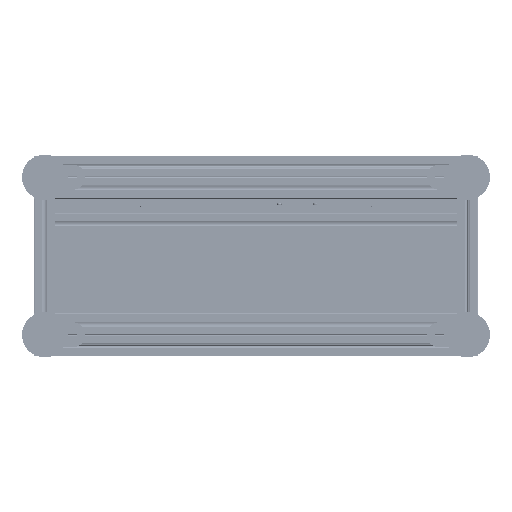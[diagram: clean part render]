
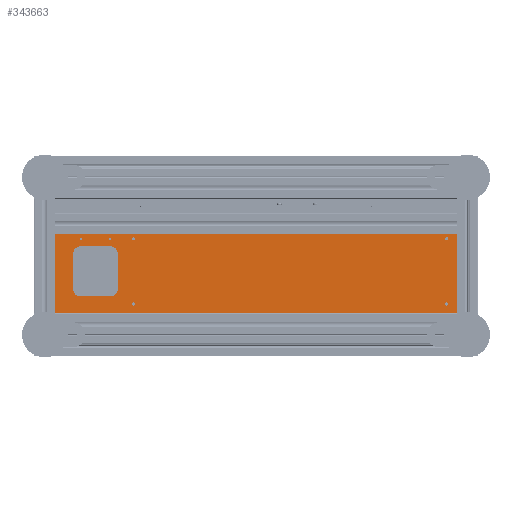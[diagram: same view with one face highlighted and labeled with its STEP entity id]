
A CAD part, front view. The second image highlights one B-rep face of the part: STEP entity #343663.
In plain terms, the highlighted planar face has unit normal (0, -1, 0).
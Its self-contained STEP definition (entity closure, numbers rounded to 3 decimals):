
#13800=FACE_BOUND('',#54525,.T.);
#13801=FACE_BOUND('',#54526,.T.);
#13802=FACE_BOUND('',#54527,.T.);
#13803=FACE_BOUND('',#54528,.T.);
#13804=FACE_BOUND('',#54529,.T.);
#13805=FACE_BOUND('',#54530,.T.);
#13806=FACE_BOUND('',#54531,.T.);
#20992=PLANE('',#367870);
#35701=FACE_OUTER_BOUND('',#54524,.T.);
#54524=EDGE_LOOP('',(#274405,#274406,#274407,#274408));
#54525=EDGE_LOOP('',(#274409));
#54526=EDGE_LOOP('',(#274410));
#54527=EDGE_LOOP('',(#274411));
#54528=EDGE_LOOP('',(#274412));
#54529=EDGE_LOOP('',(#274413));
#54530=EDGE_LOOP('',(#274414));
#54531=EDGE_LOOP('',(#274415,#274416,#274417,#274418,#274419,#274420,#274421,
#274422));
#79203=LINE('',#587271,#110276);
#79879=LINE('',#589385,#110952);
#81090=LINE('',#593198,#112163);
#81094=LINE('',#593210,#112167);
#81098=LINE('',#593222,#112171);
#81102=LINE('',#593233,#112175);
#81123=LINE('',#593339,#112196);
#81124=LINE('',#593340,#112197);
#110276=VECTOR('',#421098,0.394);
#110952=VECTOR('',#423376,0.394);
#112163=VECTOR('',#427627,0.394);
#112167=VECTOR('',#427639,0.394);
#112171=VECTOR('',#427651,0.394);
#112175=VECTOR('',#427663,0.394);
#112196=VECTOR('',#427786,0.394);
#112197=VECTOR('',#427787,0.394);
#131622=CIRCLE('',#367805,0.394);
#131624=CIRCLE('',#367809,0.394);
#131626=CIRCLE('',#367813,0.394);
#131628=CIRCLE('',#367817,0.394);
#131632=CIRCLE('',#367823,0.087);
#131635=CIRCLE('',#367827,0.087);
#131638=CIRCLE('',#367831,0.067);
#131641=CIRCLE('',#367835,0.087);
#131644=CIRCLE('',#367839,0.087);
#131647=CIRCLE('',#367843,0.067);
#150484=VERTEX_POINT('',#583625);
#151255=VERTEX_POINT('',#585946);
#152326=VERTEX_POINT('',#589382);
#152327=VERTEX_POINT('',#589384);
#153405=VERTEX_POINT('',#593188);
#153406=VERTEX_POINT('',#593189);
#153409=VERTEX_POINT('',#593197);
#153411=VERTEX_POINT('',#593203);
#153413=VERTEX_POINT('',#593209);
#153415=VERTEX_POINT('',#593215);
#153417=VERTEX_POINT('',#593221);
#153419=VERTEX_POINT('',#593227);
#153423=VERTEX_POINT('',#593240);
#153426=VERTEX_POINT('',#593248);
#153429=VERTEX_POINT('',#593256);
#153432=VERTEX_POINT('',#593264);
#153435=VERTEX_POINT('',#593272);
#153438=VERTEX_POINT('',#593280);
#192965=EDGE_CURVE('',#150484,#151255,#79203,.T.);
#194036=EDGE_CURVE('',#152326,#152327,#79879,.T.);
#195944=EDGE_CURVE('',#153405,#153406,#131622,.T.);
#195948=EDGE_CURVE('',#153409,#153405,#81090,.T.);
#195951=EDGE_CURVE('',#153411,#153409,#131624,.T.);
#195954=EDGE_CURVE('',#153413,#153411,#81094,.T.);
#195957=EDGE_CURVE('',#153415,#153413,#131626,.T.);
#195960=EDGE_CURVE('',#153417,#153415,#81098,.T.);
#195963=EDGE_CURVE('',#153419,#153417,#131628,.T.);
#195966=EDGE_CURVE('',#153406,#153419,#81102,.T.);
#195971=EDGE_CURVE('',#153423,#153423,#131632,.T.);
#195975=EDGE_CURVE('',#153426,#153426,#131635,.T.);
#195979=EDGE_CURVE('',#153429,#153429,#131638,.T.);
#195983=EDGE_CURVE('',#153432,#153432,#131641,.T.);
#195987=EDGE_CURVE('',#153435,#153435,#131644,.T.);
#195991=EDGE_CURVE('',#153438,#153438,#131647,.T.);
#196021=EDGE_CURVE('',#152326,#150484,#81123,.T.);
#196022=EDGE_CURVE('',#151255,#152327,#81124,.T.);
#274405=ORIENTED_EDGE('',*,*,#194036,.F.);
#274406=ORIENTED_EDGE('',*,*,#196021,.T.);
#274407=ORIENTED_EDGE('',*,*,#192965,.T.);
#274408=ORIENTED_EDGE('',*,*,#196022,.T.);
#274409=ORIENTED_EDGE('',*,*,#195991,.T.);
#274410=ORIENTED_EDGE('',*,*,#195987,.T.);
#274411=ORIENTED_EDGE('',*,*,#195983,.T.);
#274412=ORIENTED_EDGE('',*,*,#195979,.T.);
#274413=ORIENTED_EDGE('',*,*,#195975,.T.);
#274414=ORIENTED_EDGE('',*,*,#195971,.T.);
#274415=ORIENTED_EDGE('',*,*,#195954,.T.);
#274416=ORIENTED_EDGE('',*,*,#195951,.T.);
#274417=ORIENTED_EDGE('',*,*,#195948,.T.);
#274418=ORIENTED_EDGE('',*,*,#195944,.T.);
#274419=ORIENTED_EDGE('',*,*,#195966,.T.);
#274420=ORIENTED_EDGE('',*,*,#195963,.T.);
#274421=ORIENTED_EDGE('',*,*,#195960,.T.);
#274422=ORIENTED_EDGE('',*,*,#195957,.T.);
#343663=ADVANCED_FACE('',(#35701,#13800,#13801,#13802,#13803,#13804,#13805,
#13806),#20992,.T.);
#367805=AXIS2_PLACEMENT_3D('',#593190,#427619,#427620);
#367809=AXIS2_PLACEMENT_3D('',#593204,#427632,#427633);
#367813=AXIS2_PLACEMENT_3D('',#593216,#427644,#427645);
#367817=AXIS2_PLACEMENT_3D('',#593228,#427656,#427657);
#367823=AXIS2_PLACEMENT_3D('',#593242,#427672,#427673);
#367827=AXIS2_PLACEMENT_3D('',#593250,#427681,#427682);
#367831=AXIS2_PLACEMENT_3D('',#593258,#427690,#427691);
#367835=AXIS2_PLACEMENT_3D('',#593266,#427699,#427700);
#367839=AXIS2_PLACEMENT_3D('',#593274,#427708,#427709);
#367843=AXIS2_PLACEMENT_3D('',#593282,#427717,#427718);
#367870=AXIS2_PLACEMENT_3D('',#593338,#427784,#427785);
#421098=DIRECTION('',(1.,0.,0.));
#423376=DIRECTION('',(1.,0.,0.));
#427619=DIRECTION('center_axis',(0.,1.,0.));
#427620=DIRECTION('ref_axis',(0.,0.,
-1.));
#427627=DIRECTION('',(-1.,0.,0.));
#427632=DIRECTION('center_axis',(0.,1.,0.));
#427633=DIRECTION('ref_axis',(1.,0.,0.));
#427639=DIRECTION('',(0.,0.,-1.));
#427644=DIRECTION('center_axis',(0.,1.,0.));
#427645=DIRECTION('ref_axis',(0.,0.,
1.));
#427651=DIRECTION('',(1.,0.,0.));
#427656=DIRECTION('center_axis',(0.,1.,0.));
#427657=DIRECTION('ref_axis',(-1.,0.,0.));
#427663=DIRECTION('',(0.,0.,1.));
#427672=DIRECTION('center_axis',(0.,1.,0.));
#427673=DIRECTION('ref_axis',(0.,0.,
-1.));
#427681=DIRECTION('center_axis',(0.,1.,0.));
#427682=DIRECTION('ref_axis',(0.,0.,
-1.));
#427690=DIRECTION('center_axis',(0.,1.,0.));
#427691=DIRECTION('ref_axis',(0.,0.,
-1.));
#427699=DIRECTION('center_axis',(0.,1.,0.));
#427700=DIRECTION('ref_axis',(0.,0.,
-1.));
#427708=DIRECTION('center_axis',(0.,1.,0.));
#427709=DIRECTION('ref_axis',(0.,0.,
-1.));
#427717=DIRECTION('center_axis',(0.,1.,0.));
#427718=DIRECTION('ref_axis',(0.,0.,
-1.));
#427784=DIRECTION('center_axis',(0.,-1.,0.));
#427785=DIRECTION('ref_axis',(-1.,0.,0.));
#427786=DIRECTION('',(0.,0.,-1.));
#427787=DIRECTION('',(0.,0.,1.));
#583625=CARTESIAN_POINT('',(-24.147,17.717,-8.744));
#585946=CARTESIAN_POINT('',(-2.1,17.717,-8.744));
#587271=CARTESIAN_POINT('',(-24.147,17.717,-8.744));
#589382=CARTESIAN_POINT('',(-24.147,17.717,-4.334));
#589384=CARTESIAN_POINT('',(-2.1,17.717,-4.334));
#589385=CARTESIAN_POINT('',(-24.147,17.717,-4.334));
#593188=CARTESIAN_POINT('',(-22.769,17.717,-7.779));
#593189=CARTESIAN_POINT('',(-23.163,17.717,-7.385));
#593190=CARTESIAN_POINT('Origin',(-22.769,17.717,-7.385));
#593197=CARTESIAN_POINT('',(-21.116,17.717,-7.779));
#593198=CARTESIAN_POINT('',(-17.946,17.717,-7.779));
#593203=CARTESIAN_POINT('',(-20.722,17.717,-7.385));
#593204=CARTESIAN_POINT('Origin',(-21.116,17.717,-7.385));
#593209=CARTESIAN_POINT('',(-20.722,17.717,-5.417));
#593210=CARTESIAN_POINT('',(-20.722,17.717,-6.962));
#593215=CARTESIAN_POINT('',(-21.116,17.717,-5.023));
#593216=CARTESIAN_POINT('Origin',(-21.116,17.717,-5.417));
#593221=CARTESIAN_POINT('',(-22.769,17.717,-5.023));
#593222=CARTESIAN_POINT('',(-17.12,17.717,-5.023));
#593227=CARTESIAN_POINT('',(-23.163,17.717,-5.417));
#593228=CARTESIAN_POINT('Origin',(-22.769,17.717,-5.417));
#593233=CARTESIAN_POINT('',(-23.163,17.717,-5.978));
#593240=CARTESIAN_POINT('',(-19.856,17.717,-8.106));
#593242=CARTESIAN_POINT('Origin',(-19.856,17.717,-8.192));
#593248=CARTESIAN_POINT('',(-2.651,17.717,-8.106));
#593250=CARTESIAN_POINT('Origin',(-2.651,17.717,-8.192));
#593256=CARTESIAN_POINT('',(-21.155,17.717,-4.563));
#593258=CARTESIAN_POINT('Origin',(-21.155,17.717,-4.63));
#593264=CARTESIAN_POINT('',(-19.856,17.717,-4.523));
#593266=CARTESIAN_POINT('Origin',(-19.856,17.717,-4.61));
#593272=CARTESIAN_POINT('',(-2.651,17.717,-4.523));
#593274=CARTESIAN_POINT('Origin',(-2.651,17.717,-4.61));
#593280=CARTESIAN_POINT('',(-22.73,17.717,-4.563));
#593282=CARTESIAN_POINT('Origin',(-22.73,17.717,-4.63));
#593338=CARTESIAN_POINT('Origin',(-13.123,17.717,-6.539));
#593339=CARTESIAN_POINT('',(-24.147,17.717,-9.885));
#593340=CARTESIAN_POINT('',(-2.1,17.717,-3.192));
